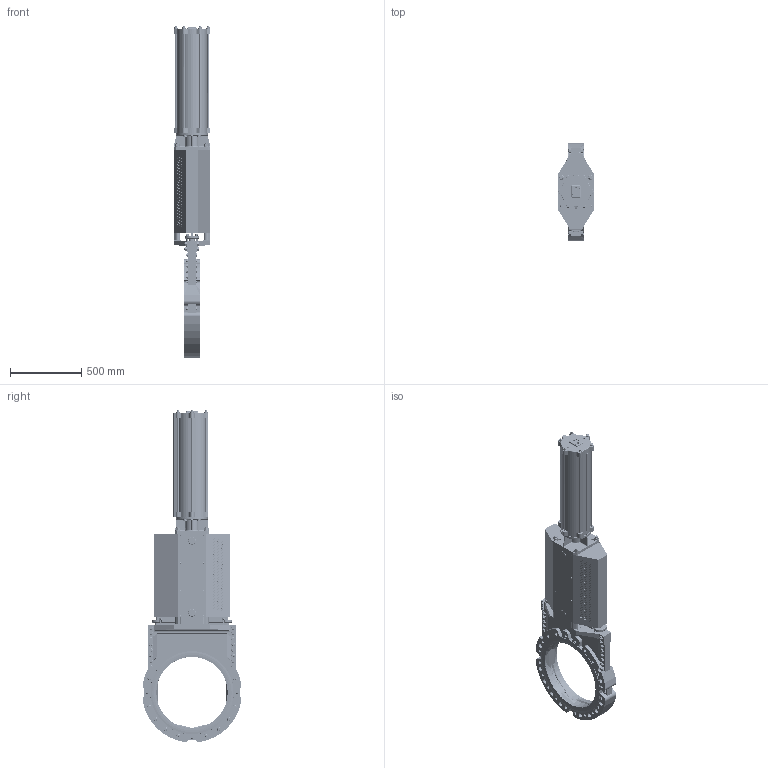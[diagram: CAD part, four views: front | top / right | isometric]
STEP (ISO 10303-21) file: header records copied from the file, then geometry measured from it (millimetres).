
FILE_DESCRIPTION(/* description */ (''),/* implementation_level */ '2;1');
FILE_NAME(/* name */ 'F:\Emir\3D-block special\WB\WB14-DN500-PN10-FRSC200-550.stp',/* time_stamp */ '2018-08-31T08:24:44+02:00',/* author */ ('emimus'),/* organization */ (''),/* preprocessor_version */ 'ST-DEVELOPER v17',/* originating_system */ 'Autodesk Inventor 2018',/* authorisation */ '');
FILE_SCHEMA (('CONFIG_CONTROL_DESIGN'));
Products named in the file (1): WB14-DN500-PN10-FRSC200-550_Sat_1
Bounding box: 257.51 x 692.02 x 2323.01 mm (x, y, z)
Volume: 45962919.9 mm3; surface area: 7445245.4 mm2
Topology: 1 solids, 1 shells, 4929 faces, 12540 edges, 7948 vertices
Faces by surface type: plane 2050, cylinder 1376, cone 627, bspline 344, torus 332, sphere 200
Full cylindrical faces by diameter (mm): 3.7 x16, 4 x2, 4.2 x16, 4.3 x6, 4.5 x16, 4.917 x7, 5 x2, 6.647 x4, 7.5 x4, 8.376 x4, 9.5 x2, 10 x9, 10.106 x10, 12 x16, 13 x16, 15 x1, 16 x29, 17 x4, 17.294 x4, 18 x2, 18.631 x2, 20 x12, 20.752 x40, 21 x8, 22 x29, 22.49 x4, 24 x11, 30 x58, 33 x59, 36 x2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
Entity records: 162376 total; most frequent: CARTESIAN_POINT 43659, DIRECTION 25320, ORIENTED_EDGE 24948, EDGE_CURVE 12474, AXIS2_PLACEMENT_3D 10136, VERTEX_POINT 7944, EDGE_LOOP 5770, CIRCLE 5287
